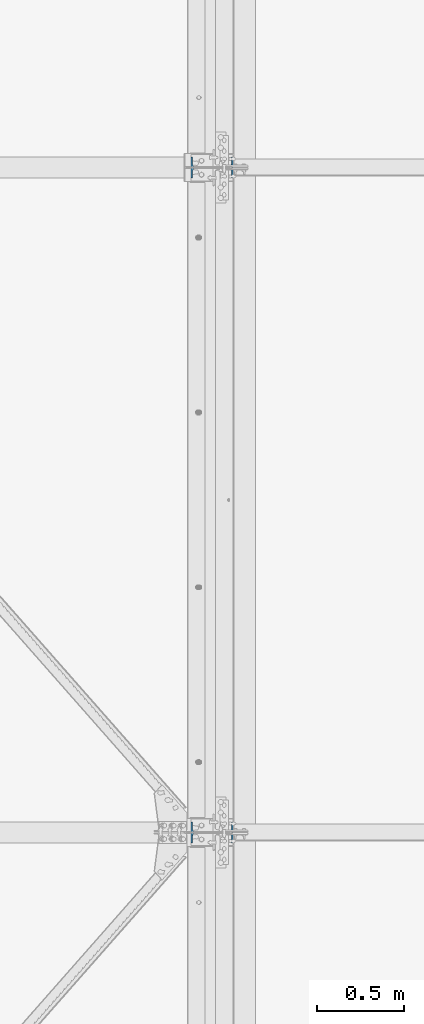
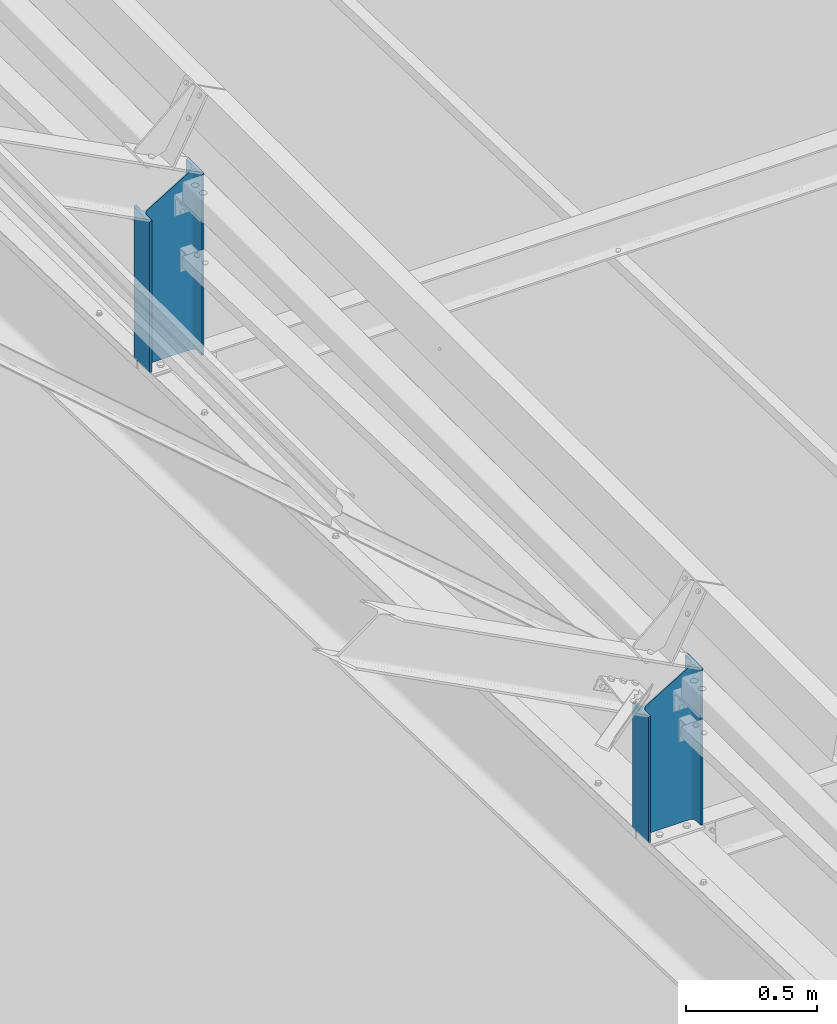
# One storey, part 31 of 362: 2 columns, 2 elements without a shape of their own.
"""IFC2X3 building model written with IfcOpenShell, lengths in millimetres."""

from ifc_helpers import new_model, si_unit, frame, origin_with_axes, origin_2d_with_axis, place, context, subcontext, project, spatial, i_section, extrude, clip, halfspace, material, type_object, element, aggregate, save


model = new_model("IFC2X3")

# Units and contexts
model_context = context("Model", 3, precision=1e-05, world=origin_with_axes())
body_context = subcontext(model_context, "Body", "Model", "MODEL_VIEW")
ifc_project = project(units=[si_unit("LENGTHUNIT", "METRE", prefix="MILLI"), si_unit("AREAUNIT", "SQUARE_METRE"), si_unit("VOLUMEUNIT", "CUBIC_METRE"), si_unit("MASSUNIT", "GRAM", prefix="KILO"), si_unit("TIMEUNIT", "SECOND"), si_unit("PLANEANGLEUNIT", "RADIAN"), si_unit("SOLIDANGLEUNIT", "STERADIAN"), si_unit("THERMODYNAMICTEMPERATUREUNIT", "DEGREE_CELSIUS"), si_unit("LUMINOUSINTENSITYUNIT", "LUMEN")], contexts=[model_context])

# Site, building, storey
site_placement = place(None, origin_with_axes())
site = spatial("IfcSite", under=ifc_project, at=site_placement, Name="Undefined", CompositionType="ELEMENT")
building_placement = place(site_placement, origin_with_axes())
building = spatial("IfcBuilding", under=site, at=building_placement, Name="Undefined", CompositionType="ELEMENT")
storey_placement = place(building_placement, origin_with_axes())
storey = spatial("IfcBuildingStorey", under=building, at=storey_placement, Name="Undefined", CompositionType="ELEMENT", Elevation=0.0)

# Assembly, column
assembly_1_placement = place(storey_placement, origin_with_axes())
assembly_1 = element("IfcElementAssembly", 1, at=assembly_1_placement, inside=storey, Name="TRAVERSE SHED", AssemblyPlace="NOTDEFINED", PredefinedType="NOTDEFINED")
ifc_material = material(Name="Undefined/S275-E28")
column_type = type_object("IfcColumnType", Name="IPE240", PredefinedType="NOTDEFINED")
column_1_placement = place(assembly_1_placement, frame((19550.0, 11400.0, 7691.74056786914), z_axis=(0.0, 0.0, 1.0), x_axis=(-1.0, 0.0, 0.0)))
column_1 = element("IfcColumn", 2, at=column_1_placement, type_object=column_type, material=ifc_material, Name="TRAVERSE SHED", ObjectType="IPE240", context=body_context, shape_type="Clipping", body=[
    clip(clip(extrude(i_section(OverallWidth=120.0, OverallDepth=240.0, WebThickness=6.199999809, FlangeThickness=9.800000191, FilletRadius=15.0, at=origin_2d_with_axis()), frame((0.0, 0.0, 860.890403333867), z_axis=(0.0, 0.0, -1.0), x_axis=(0.0, 1.0, 0.0)), (0.0, 0.0, 1.0), 926.17), halfspace(frame((-120.000000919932, 7600.0, 858.259434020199), z_axis=(0.517914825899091, 0.0, 0.855432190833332), x_axis=(0.0, 1.0, 0.0)), False)), halfspace(frame((0.0, -74.9626762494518, 7.64961930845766), z_axis=(0.0, 0.031410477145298, -0.999506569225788), x_axis=(1.0, 0.0, 0.0)), False)),
])
aggregate(assembly_1, [column_1])

assembly_2_placement = place(storey_placement, origin_with_axes())
assembly_2 = element("IfcElementAssembly", 3, at=assembly_2_placement, inside=storey, Name="TRAVERSE SHED", AssemblyPlace="NOTDEFINED", PredefinedType="NOTDEFINED")
column_2_placement = place(assembly_2_placement, frame((19550.0, 7600.0, 7811.1603785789), z_axis=(0.0, 0.0, 1.0), x_axis=(-1.0, 0.0, 0.0)))
column_2 = element("IfcColumn", 4, at=column_2_placement, type_object=column_type, material=ifc_material, Name="TRAVERSE SHED", ObjectType="IPE240", context=body_context, shape_type="Clipping", body=[
    clip(clip(extrude(i_section(OverallWidth=120.0, OverallDepth=240.0, WebThickness=6.199999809, FlangeThickness=9.800000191, FilletRadius=15.0, at=origin_2d_with_axis()), frame((0.0, 0.0, 741.470592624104), z_axis=(0.0, 0.0, -1.0), x_axis=(0.0, 1.0, 0.0)), (0.0, 0.0, 1.0), 806.75), halfspace(frame((-120.000000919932, 3800.0, 738.839623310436), z_axis=(0.517914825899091, 0.0, 0.855432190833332), x_axis=(0.0, 1.0, 0.0)), False)), halfspace(frame((0.0, -74.9626762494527, 7.65008349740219), z_axis=(0.0, 0.031410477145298, -0.999506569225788), x_axis=(1.0, 0.0, 0.0)), False)),
])
aggregate(assembly_2, [column_2])

save(model, "model.ifc")
